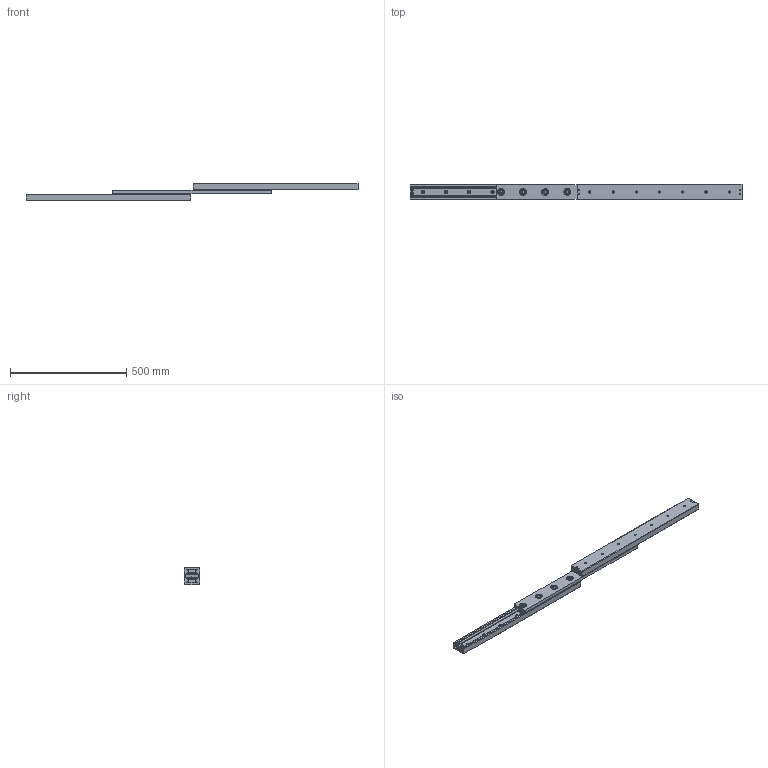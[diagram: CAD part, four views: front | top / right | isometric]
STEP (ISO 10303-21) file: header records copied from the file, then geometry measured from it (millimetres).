
FILE_DESCRIPTION (( 'STEP AP214' ), '1' );
FILE_NAME ('LSIM65DFL.STEP', '2021-06-14T01:50:23', ( '' ), ( '' ), 'SwSTEP 2.0', 'SolidWorks 2019', '' );
FILE_SCHEMA (( 'AUTOMOTIVE_DESIGN' ));
Length unit declared in the file: millimetre
Products named in the file (4): LSIM65ストッパー; LSIM65DFL; LSIM65DFLレール; LSIM65DFLリテーナ
Assembly tree (7 placements, depth 2):
  LSIM65DFL
    LSIM65DFLリテーナ
    LSIM65DFLレール  x2
    LSIM65ストッパー  x4
Bounding box: 1430 x 65 x 76 mm (x, y, z)
Volume: 2227038.9 mm3; surface area: 506644.8 mm2
Topology: 7 solids, 7 shells, 508 faces, 1092 edges, 692 vertices
Faces by surface type: plane 260, cylinder 136, cone 104, torus 8
Full cylindrical faces by diameter (mm): 4.2 x8, 5 x8, 8.5 x8, 9 x14, 9.5 x8, 12 x8, 14 x14, 18 x8, 21 x8, 30 x8, 35 x16
Entity records: 8970 total; most frequent: CARTESIAN_POINT 1851, DIRECTION 1464, ORIENTED_EDGE 1300, EDGE_CURVE 650, AXIS2_PLACEMENT_3D 641, EDGE_LOOP 528, VERTEX_POINT 452, FACE_OUTER_BOUND 435
